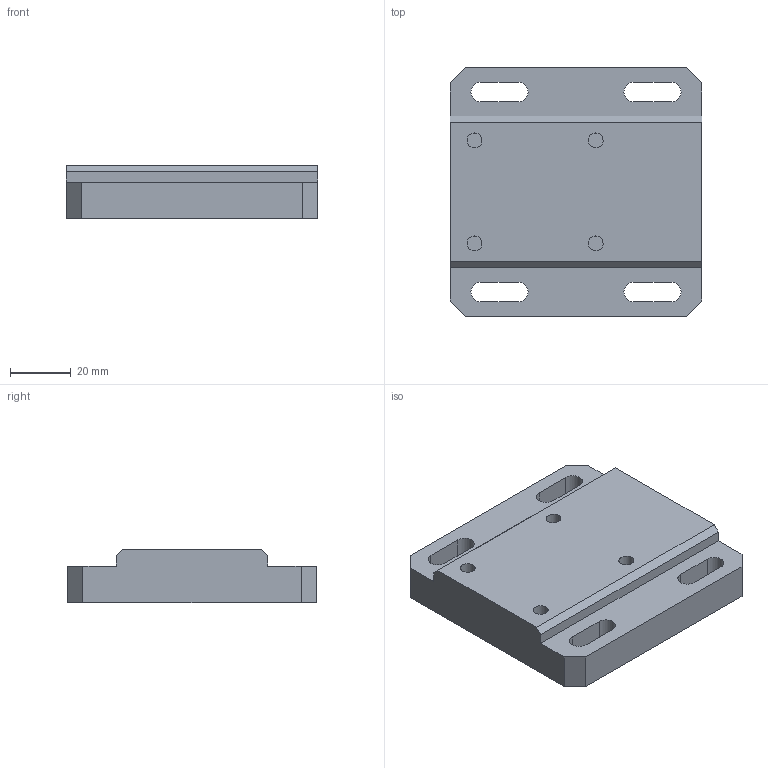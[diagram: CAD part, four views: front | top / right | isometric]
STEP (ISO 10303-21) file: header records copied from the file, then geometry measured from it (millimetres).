
FILE_DESCRIPTION(('CATIA V5 STEP Exchange'),'2;1');
FILE_NAME('D:\姚明阳\1、工装图纸\AGZ036 按压速降阀管箍锁紧工装\AGZ036.03_V1.stp','2025-08-27T06:35:43+00:00',('none'),('none'),'CATIA Version 5 Release 21 GA (IN-10)','CATIA V5 STEP AP214','none');
FILE_SCHEMA(('AUTOMOTIVE_DESIGN { 1 0 10303 214 1 1 1 1 }'));
Length unit declared in the file: millimetre
Products named in the file (1): AGZ036.03_V1
Bounding box: 83 x 82 x 17.5 mm (x, y, z)
Volume: 96965.6 mm3; surface area: 20848.3 mm2
Topology: 1 solids, 1 shells, 44 faces, 114 edges, 76 vertices
Faces by surface type: plane 28, cylinder 16
Entity records: 1304 total; most frequent: ORIENTED_EDGE 228, CARTESIAN_POINT 227, DIRECTION 180, EDGE_CURVE 114, VECTOR 80, LINE 80, VERTEX_POINT 76, AXIS2_PLACEMENT_3D 67
